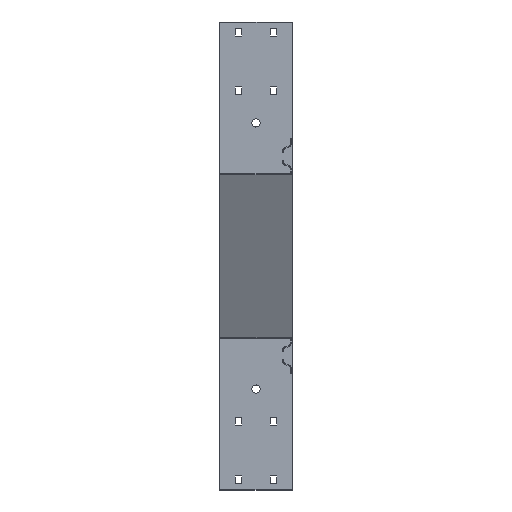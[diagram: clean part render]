
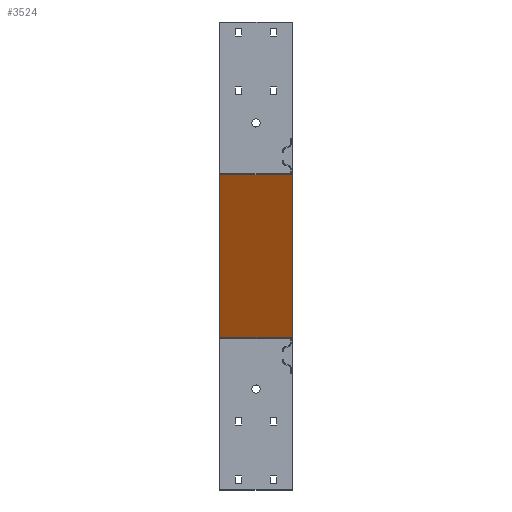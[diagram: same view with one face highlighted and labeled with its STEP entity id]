
A CAD part, left-side view. The second image highlights one B-rep face of the part: STEP entity #3524.
In plain terms, the highlighted planar face has unit normal (-0.881, 0, -0.472) as drawn and (0.881, 0, -0.472) by its records, which use the part's own axes.
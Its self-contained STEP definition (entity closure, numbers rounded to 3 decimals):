
#209 = CARTESIAN_POINT ( 'NONE',  ( 152.178, 0., -280.17 ) ) ;
#910 = EDGE_LOOP ( 'NONE', ( #5154, #6179, #7252, #4209 ) ) ;
#962 = EDGE_CURVE ( 'NONE', #4744, #7051, #4844, .T. ) ;
#1022 = PLANE ( 'NONE',  #3731 ) ;
#1390 = VECTOR ( 'NONE', #1696, 1000. ) ;
#1519 = LINE ( 'NONE', #2866, #6124 ) ;
#1696 = DIRECTION ( 'NONE',  ( 0., 1., 0. ) ) ;
#2370 = FACE_OUTER_BOUND ( 'NONE', #910, .T. ) ;
#2866 = CARTESIAN_POINT ( 'NONE',  ( 301.585, 0., -1.276 ) ) ;
#3041 = DIRECTION ( 'NONE',  ( 0.472, 0., 0.881 ) ) ;
#3418 = VERTEX_POINT ( 'NONE', #7889 ) ;
#3524 = ADVANCED_FACE ( 'NONE', ( #2370 ), #1022, .F. ) ;
#3731 = AXIS2_PLACEMENT_3D ( 'NONE', #4593, #8241, #3041 ) ;
#3855 = DIRECTION ( 'NONE',  ( -0.472, 0., -0.881 ) ) ;
#4209 = ORIENTED_EDGE ( 'NONE', *, *, #5110, .F. ) ;
#4391 = VERTEX_POINT ( 'NONE', #5225 ) ;
#4593 = CARTESIAN_POINT ( 'NONE',  ( 301.763, 124., -0.944 ) ) ;
#4744 = VERTEX_POINT ( 'NONE', #7865 ) ;
#4828 = EDGE_CURVE ( 'NONE', #4391, #3418, #5192, .T. ) ;
#4844 = LINE ( 'NONE', #5350, #4850 ) ;
#4850 = VECTOR ( 'NONE', #6908, 1000. ) ;
#5110 = EDGE_CURVE ( 'NONE', #4391, #4744, #1519, .T. ) ;
#5154 = ORIENTED_EDGE ( 'NONE', *, *, #4828, .T. ) ;
#5192 = LINE ( 'NONE', #5926, #7644 ) ;
#5225 = CARTESIAN_POINT ( 'NONE',  ( 301.585, 0., -1.276 ) ) ;
#5350 = CARTESIAN_POINT ( 'NONE',  ( 301.763, 124., -0.944 ) ) ;
#5926 = CARTESIAN_POINT ( 'NONE',  ( 301.763, 0., -0.944 ) ) ;
#6124 = VECTOR ( 'NONE', #6280, 1000. ) ;
#6179 = ORIENTED_EDGE ( 'NONE', *, *, #6765, .T. ) ;
#6280 = DIRECTION ( 'NONE',  ( 0., 1., 0. ) ) ;
#6623 = LINE ( 'NONE', #209, #1390 ) ;
#6765 = EDGE_CURVE ( 'NONE', #3418, #7051, #6623, .T. ) ;
#6908 = DIRECTION ( 'NONE',  ( -0.472, 0., -0.881 ) ) ;
#7039 = CARTESIAN_POINT ( 'NONE',  ( 152.178, 124., -280.17 ) ) ;
#7051 = VERTEX_POINT ( 'NONE', #7039 ) ;
#7252 = ORIENTED_EDGE ( 'NONE', *, *, #962, .F. ) ;
#7644 = VECTOR ( 'NONE', #3855, 1000. ) ;
#7865 = CARTESIAN_POINT ( 'NONE',  ( 301.585, 124., -1.276 ) ) ;
#7889 = CARTESIAN_POINT ( 'NONE',  ( 152.178, 0., -280.17 ) ) ;
#8241 = DIRECTION ( 'NONE',  ( -0.881, 0., 0.472 ) ) ;
